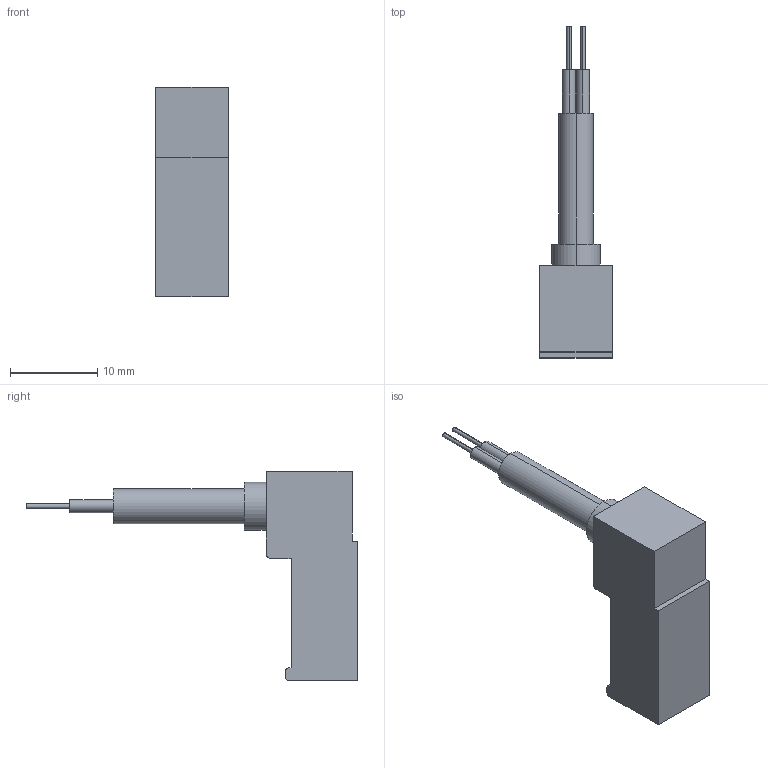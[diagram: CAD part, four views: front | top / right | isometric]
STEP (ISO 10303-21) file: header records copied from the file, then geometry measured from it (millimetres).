
FILE_DESCRIPTION (( 'STEP AP203' ), '1' );
FILE_NAME ('MT-2(3)U.STEP', '2016-06-21T01:09:56', ( '' ), ( '' ), 'SwSTEP 2.0', 'SolidWorks 2014', '' );
FILE_SCHEMA (( 'CONFIG_CONTROL_DESIGN' ));
Length unit declared in the file: millimetre
Products named in the file (1): MT-2(3)U
Bounding box: 8.3 x 38 x 24 mm (x, y, z)
Volume: 1991.6 mm3; surface area: 1288.1 mm2
Topology: 1 solids, 1 shells, 33 faces, 75 edges, 50 vertices
Faces by surface type: plane 18, cylinder 15
Entity records: 1016 total; most frequent: DIRECTION 173, CARTESIAN_POINT 159, ORIENTED_EDGE 150, EDGE_CURVE 75, AXIS2_PLACEMENT_3D 64, VERTEX_POINT 50, LINE 45, VECTOR 45
